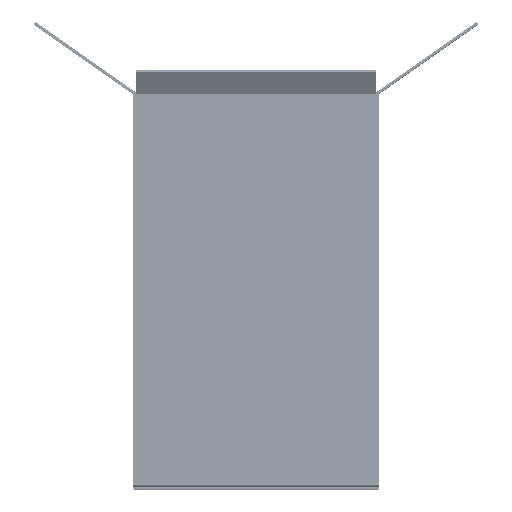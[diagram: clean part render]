
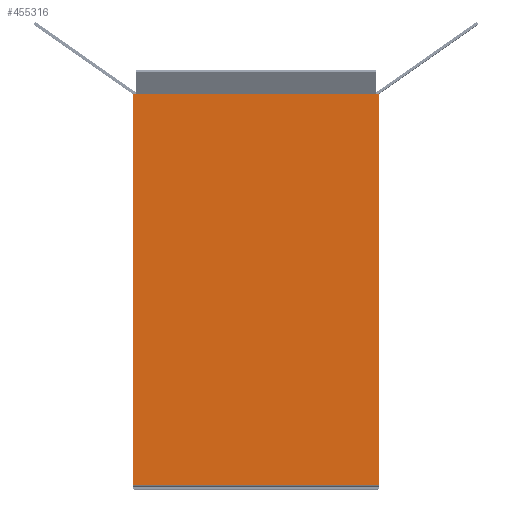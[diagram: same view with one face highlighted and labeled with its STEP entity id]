
A CAD part, top view. The second image highlights one B-rep face of the part: STEP entity #455316.
In plain terms, the highlighted planar face has unit normal (0, 0, 1) as drawn and (-1, 0, 0) by its records, which use the part's own axes.
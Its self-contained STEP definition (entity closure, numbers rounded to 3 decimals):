
#454127=DIRECTION('',(0.,0.,1.));
#454128=VECTOR('',#454127,7.);
#454129=CARTESIAN_POINT('',(-429.5,510.,-321.));
#454130=LINE('',#454129,#454128);
#454151=DIRECTION('',(0.,0.,1.));
#454152=VECTOR('',#454151,7.);
#454153=CARTESIAN_POINT('',(-429.5,510.,314.));
#454154=LINE('',#454153,#454152);
#454359=DIRECTION('',(0.,0.,1.));
#454360=VECTOR('',#454359,628.);
#454361=CARTESIAN_POINT('',(-429.5,510.,-314.));
#454362=LINE('',#454361,#454360);
#454363=DIRECTION('',(0.,-1.,0.));
#454364=VECTOR('',#454363,1022.);
#454365=CARTESIAN_POINT('',(-429.5,510.,321.));
#454366=LINE('',#454365,#454364);
#454367=DIRECTION('',(0.,1.,0.));
#454368=VECTOR('',#454367,1022.);
#454369=CARTESIAN_POINT('',(-429.5,-512.,-321.));
#454370=LINE('',#454369,#454368);
#454424=DIRECTION('',(0.,0.,-1.));
#454425=VECTOR('',#454424,642.);
#454426=CARTESIAN_POINT('',(-429.5,-512.,321.));
#454427=LINE('',#454426,#454425);
#454715=CARTESIAN_POINT('',(-429.5,-512.,321.));
#454716=CARTESIAN_POINT('',(-429.5,-512.,-321.));
#454717=VERTEX_POINT('',#454715);
#454718=VERTEX_POINT('',#454716);
#454723=CARTESIAN_POINT('',(-429.5,510.,321.));
#454724=VERTEX_POINT('',#454723);
#454725=CARTESIAN_POINT('',(-429.5,510.,-321.));
#454726=VERTEX_POINT('',#454725);
#454859=CARTESIAN_POINT('',(-429.5,510.,314.));
#454861=VERTEX_POINT('',#454859);
#454863=CARTESIAN_POINT('',(-429.5,510.,-314.));
#454864=VERTEX_POINT('',#454863);
#455301=CARTESIAN_POINT('',(-429.5,-510.,-321.));
#455302=DIRECTION('',(-1.,0.,0.));
#455303=DIRECTION('',(0.,0.,1.));
#455304=AXIS2_PLACEMENT_3D('',#455301,#455302,#455303);
#455305=PLANE('',#455304);
#455307=ORIENTED_EDGE('',*,*,#455306,.T.);
#455308=ORIENTED_EDGE('',*,*,#454932,.T.);
#455309=ORIENTED_EDGE('',*,*,#455125,.T.);
#455311=ORIENTED_EDGE('',*,*,#455310,.T.);
#455312=ORIENTED_EDGE('',*,*,#455210,.T.);
#455313=ORIENTED_EDGE('',*,*,#454912,.T.);
#455314=EDGE_LOOP('',(#455307,#455308,#455309,#455311,#455312,#455313));
#455315=FACE_OUTER_BOUND('',#455314,.F.);
#455316=ADVANCED_FACE('',(#455315),#455305,.T.);
#454912=EDGE_CURVE('',#454726,#454864,#454130,.T.);
#454932=EDGE_CURVE('',#454861,#454724,#454154,.T.);
#455125=EDGE_CURVE('',#454724,#454717,#454366,.T.);
#455210=EDGE_CURVE('',#454718,#454726,#454370,.T.);
#455306=EDGE_CURVE('',#454864,#454861,#454362,.T.);
#455310=EDGE_CURVE('',#454717,#454718,#454427,.T.);
